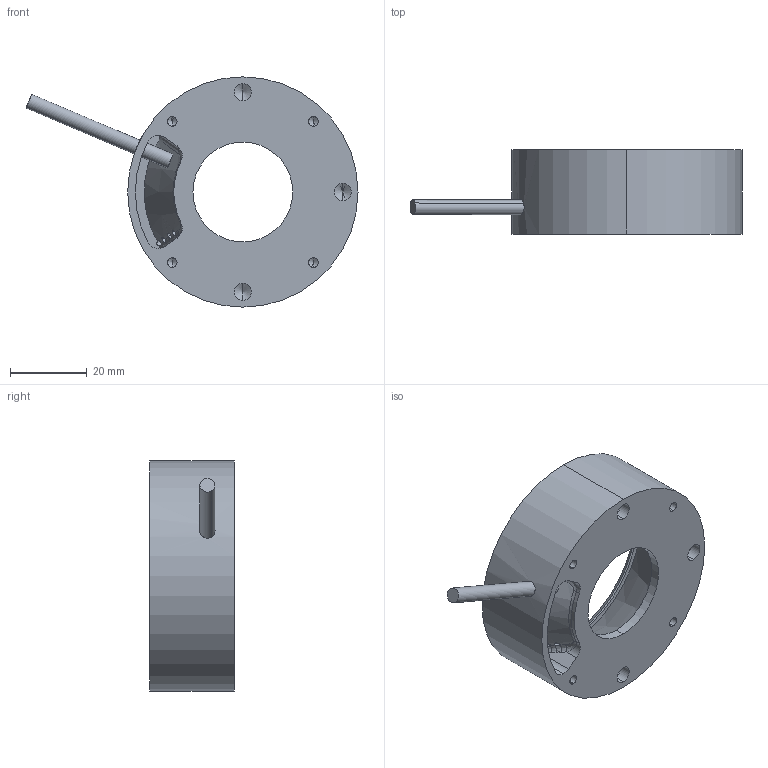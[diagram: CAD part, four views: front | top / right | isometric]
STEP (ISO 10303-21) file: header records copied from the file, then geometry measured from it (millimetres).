
FILE_DESCRIPTION (( 'STEP AP214' ), '1' );
FILE_NAME ('RMF60.step', '2019-04-05T16:47:53', ( '' ), ( '' ), 'SwSTEP 2.0', 'SolidWorks 2019', '' );
FILE_SCHEMA (( 'AUTOMOTIVE_DESIGN' ));
Length unit declared in the file: millimetre
Products named in the file (3): Turck Cable; DFR60 Ring Light 1R Housing R2; RMF60
Assembly tree (2 placements, depth 2):
  RMF60
    DFR60 Ring Light 1R Housing R2
    Turck Cable
Bounding box: 86.49 x 22 x 60 mm (x, y, z)
Volume: 28717.5 mm3; surface area: 12897 mm2
Topology: 2 solids, 2 shells, 89 faces, 221 edges, 127 vertices
Faces by surface type: cylinder 39, cone 33, plane 8, bspline 8, torus 1
Entity records: 4268 total; most frequent: CARTESIAN_POINT 1192, DIRECTION 415, ORIENTED_EDGE 414, EDGE_CURVE 207, AXIS2_PLACEMENT_3D 170, VERTEX_POINT 127, EDGE_LOOP 106, UNCERTAINTY_MEASURE_WITH_UNIT 96
